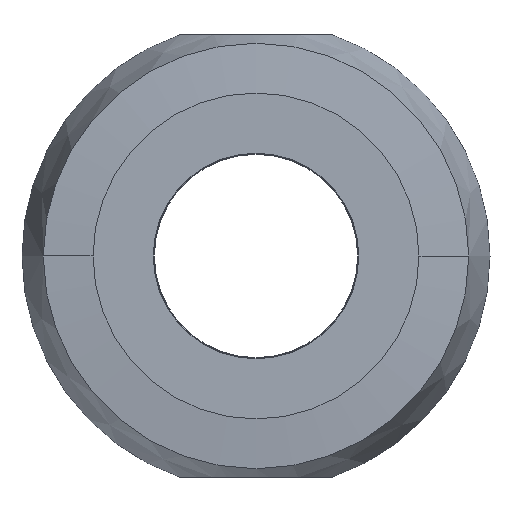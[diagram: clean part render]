
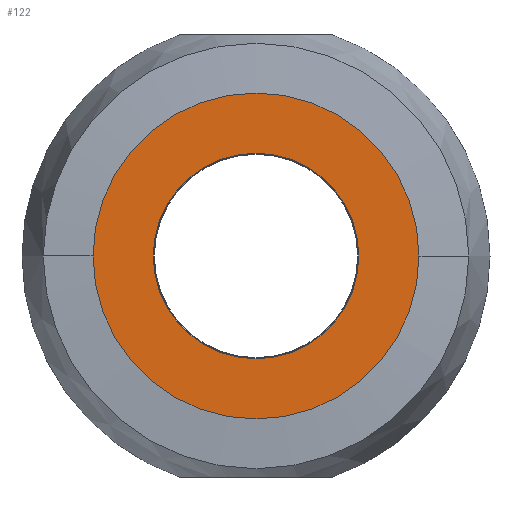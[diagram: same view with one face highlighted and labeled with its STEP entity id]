
A CAD part, front view. The second image highlights one B-rep face of the part: STEP entity #122.
In plain terms, the highlighted planar face has unit normal (0, -1, 0).
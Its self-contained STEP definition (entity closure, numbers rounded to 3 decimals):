
#122 = ADVANCED_FACE( '', ( #226, #227 ), #228, .T. );
#226 = FACE_BOUND( '', #337, .T. );
#227 = FACE_OUTER_BOUND( '', #338, .T. );
#228 = PLANE( '', #339 );
#337 = EDGE_LOOP( '', ( #731, #732, #733 ) );
#338 = EDGE_LOOP( '', ( #734, #735 ) );
#339 = AXIS2_PLACEMENT_3D( '', #736, #737, #738 );
#731 = ORIENTED_EDGE( '', *, *, #885, .T. );
#732 = ORIENTED_EDGE( '', *, *, #878, .T. );
#733 = ORIENTED_EDGE( '', *, *, #886, .T. );
#734 = ORIENTED_EDGE( '', *, *, #806, .F. );
#735 = ORIENTED_EDGE( '', *, *, #905, .F. );
#736 = CARTESIAN_POINT( '', ( 9.75, 0., 0. ) );
#737 = DIRECTION( '', ( 0., -1., 0. ) );
#738 = DIRECTION( '', ( -1., 0., 0. ) );
#806 = EDGE_CURVE( '', #962, #964, #965, .T. );
#878 = EDGE_CURVE( '', #1086, #1090, #1092, .T. );
#885 = EDGE_CURVE( '', #1101, #1086, #1102, .T. );
#886 = EDGE_CURVE( '', #1090, #1101, #1103, .T. );
#905 = EDGE_CURVE( '', #964, #962, #1123, .T. );
#962 = VERTEX_POINT( '', #1195 );
#964 = VERTEX_POINT( '', #1198 );
#965 = CIRCLE( '', #1199, 19.5 );
#1086 = VERTEX_POINT( '', #1341 );
#1090 = VERTEX_POINT( '', #1345 );
#1092 = CIRCLE( '', #1347, 12.297 );
#1101 = VERTEX_POINT( '', #1367 );
#1102 = CIRCLE( '', #1368, 12.297 );
#1103 = CIRCLE( '', #1369, 12.297 );
#1123 = CIRCLE( '', #1389, 19.5 );
#1195 = CARTESIAN_POINT( '', ( 19.5, 0., 0. ) );
#1198 = CARTESIAN_POINT( '', ( -19.5, 0., 0. ) );
#1199 = AXIS2_PLACEMENT_3D( '', #1466, #1467, #1468 );
#1341 = CARTESIAN_POINT( '', ( 0., 0., -12.297 ) );
#1345 = CARTESIAN_POINT( '', ( 0., 0., 12.297 ) );
#1347 = AXIS2_PLACEMENT_3D( '', #1640, #1641, #1642 );
#1367 = CARTESIAN_POINT( '', ( 12.297, 0., 0. ) );
#1368 = AXIS2_PLACEMENT_3D( '', #1654, #1655, #1656 );
#1369 = AXIS2_PLACEMENT_3D( '', #1657, #1658, #1659 );
#1389 = AXIS2_PLACEMENT_3D( '', #1714, #1715, #1716 );
#1466 = CARTESIAN_POINT( '', ( 0., 0., 0. ) );
#1467 = DIRECTION( '', ( 0., 1., 0. ) );
#1468 = DIRECTION( '', ( 1., 0., 0. ) );
#1640 = CARTESIAN_POINT( '', ( 0., 0., 0. ) );
#1641 = DIRECTION( '', ( 0., 1., 0. ) );
#1642 = DIRECTION( '', ( 1., 0., 0. ) );
#1654 = CARTESIAN_POINT( '', ( 0., 0., 0. ) );
#1655 = DIRECTION( '', ( 0., 1., 0. ) );
#1656 = DIRECTION( '', ( 1., 0., 0. ) );
#1657 = CARTESIAN_POINT( '', ( 0., 0., 0. ) );
#1658 = DIRECTION( '', ( 0., 1., 0. ) );
#1659 = DIRECTION( '', ( 1., 0., 0. ) );
#1714 = CARTESIAN_POINT( '', ( 0., 0., 0. ) );
#1715 = DIRECTION( '', ( 0., 1., 0. ) );
#1716 = DIRECTION( '', ( 1., 0., 0. ) );
